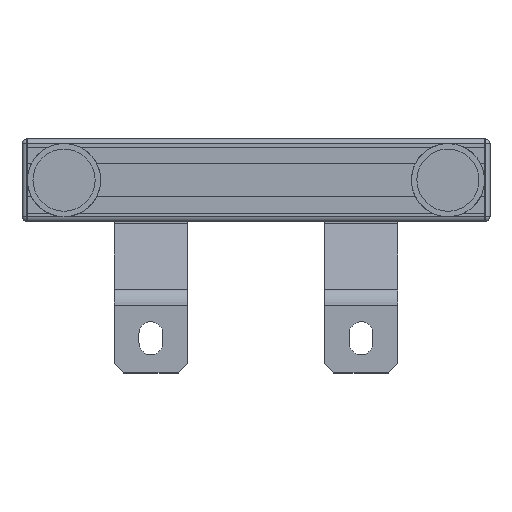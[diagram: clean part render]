
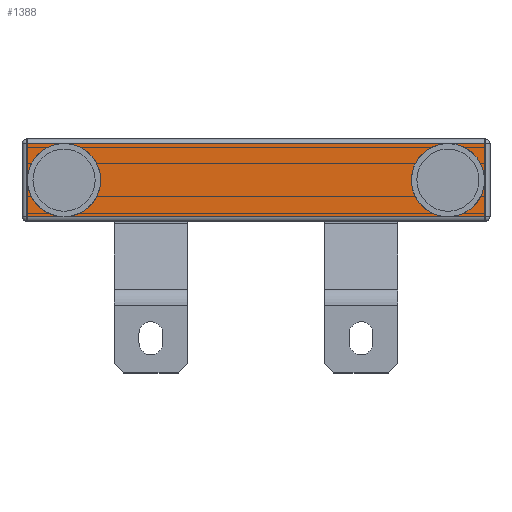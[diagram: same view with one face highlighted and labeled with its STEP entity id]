
A CAD part, front view. The second image highlights one B-rep face of the part: STEP entity #1388.
In plain terms, the highlighted planar face has unit normal (0, -1, 0).
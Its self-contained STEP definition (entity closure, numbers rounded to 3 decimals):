
#265 = ORIENTED_EDGE ( 'NONE', *, *, #9465, .T. ) ;
#386 = EDGE_LOOP ( 'NONE', ( #3110 ) ) ;
#410 = LINE ( 'NONE', #660, #1087 ) ;
#454 = VERTEX_POINT ( 'NONE', #10147 ) ;
#624 = CARTESIAN_POINT ( 'NONE',  ( 125., -19., 20. ) ) ;
#660 = CARTESIAN_POINT ( 'NONE',  ( -125., -19., 0. ) ) ;
#877 = EDGE_LOOP ( 'NONE', ( #3488, #5421, #2536, #265 ) ) ;
#886 = DIRECTION ( 'NONE',  ( 0., 0., -1. ) ) ;
#954 = VERTEX_POINT ( 'NONE', #8702 ) ;
#1087 = VECTOR ( 'NONE', #4224, 1000. ) ;
#1388 = ADVANCED_FACE ( 'NONE', ( #6657, #7615, #2907 ), #5909, .F. ) ;
#1490 = CARTESIAN_POINT ( 'NONE',  ( 105., -19., 0. ) ) ;
#1722 = CARTESIAN_POINT ( 'NONE',  ( 105., -19., 3.4 ) ) ;
#2437 = VERTEX_POINT ( 'NONE', #6790 ) ;
#2473 = LINE ( 'NONE', #11167, #5988 ) ;
#2536 = ORIENTED_EDGE ( 'NONE', *, *, #5038, .F. ) ;
#2907 = FACE_OUTER_BOUND ( 'NONE', #877, .T. ) ;
#2909 = VECTOR ( 'NONE', #10867, 1000. ) ;
#3110 = ORIENTED_EDGE ( 'NONE', *, *, #7900, .T. ) ;
#3488 = ORIENTED_EDGE ( 'NONE', *, *, #4052, .T. ) ;
#3547 = DIRECTION ( 'NONE',  ( -1., 0., 0. ) ) ;
#4052 = EDGE_CURVE ( 'NONE', #2437, #454, #410, .T. ) ;
#4224 = DIRECTION ( 'NONE',  ( 0., 0., -1. ) ) ;
#4311 = AXIS2_PLACEMENT_3D ( 'NONE', #1490, #6435, #9099 ) ;
#4598 = VERTEX_POINT ( 'NONE', #5469 ) ;
#4758 = CARTESIAN_POINT ( 'NONE',  ( 125., -19., 20. ) ) ;
#4843 = DIRECTION ( 'NONE',  ( 0., 1., 0. ) ) ;
#4880 = CIRCLE ( 'NONE', #11740, 3.4 ) ;
#5038 = EDGE_CURVE ( 'NONE', #9278, #954, #9553, .T. ) ;
#5370 = LINE ( 'NONE', #624, #2909 ) ;
#5421 = ORIENTED_EDGE ( 'NONE', *, *, #5586, .F. ) ;
#5469 = CARTESIAN_POINT ( 'NONE',  ( -105., -19., 3.4 ) ) ;
#5586 = EDGE_CURVE ( 'NONE', #954, #454, #2473, .T. ) ;
#5797 = ORIENTED_EDGE ( 'NONE', *, *, #7230, .T. ) ;
#5803 = CARTESIAN_POINT ( 'NONE',  ( 125., -19., 20. ) ) ;
#5815 = DIRECTION ( 'NONE',  ( 0., 1., 0. ) ) ;
#5909 = PLANE ( 'NONE',  #7726 ) ;
#5988 = VECTOR ( 'NONE', #3547, 1000. ) ;
#6435 = DIRECTION ( 'NONE',  ( 0., 1., 0. ) ) ;
#6657 = FACE_BOUND ( 'NONE', #386, .T. ) ;
#6788 = DIRECTION ( 'NONE',  ( 0., 0., 1. ) ) ;
#6790 = CARTESIAN_POINT ( 'NONE',  ( -125., -19., 20. ) ) ;
#7230 = EDGE_CURVE ( 'NONE', #4598, #4598, #4880, .T. ) ;
#7615 = FACE_BOUND ( 'NONE', #7696, .T. ) ;
#7696 = EDGE_LOOP ( 'NONE', ( #5797 ) ) ;
#7718 = CARTESIAN_POINT ( 'NONE',  ( -105., -19., 0. ) ) ;
#7726 = AXIS2_PLACEMENT_3D ( 'NONE', #10511, #4843, #6788 ) ;
#7900 = EDGE_CURVE ( 'NONE', #10452, #10452, #11163, .T. ) ;
#8702 = CARTESIAN_POINT ( 'NONE',  ( 125., -19., -20. ) ) ;
#9099 = DIRECTION ( 'NONE',  ( 0., 0., 1. ) ) ;
#9278 = VERTEX_POINT ( 'NONE', #5803 ) ;
#9465 = EDGE_CURVE ( 'NONE', #9278, #2437, #5370, .T. ) ;
#9553 = LINE ( 'NONE', #4758, #9817 ) ;
#9817 = VECTOR ( 'NONE', #886, 1000. ) ;
#10147 = CARTESIAN_POINT ( 'NONE',  ( -125., -19., -20. ) ) ;
#10452 = VERTEX_POINT ( 'NONE', #1722 ) ;
#10511 = CARTESIAN_POINT ( 'NONE',  ( 125., -19., 0. ) ) ;
#10680 = DIRECTION ( 'NONE',  ( 0., 0., 1. ) ) ;
#10867 = DIRECTION ( 'NONE',  ( -1., 0., 0. ) ) ;
#11163 = CIRCLE ( 'NONE', #4311, 3.4 ) ;
#11167 = CARTESIAN_POINT ( 'NONE',  ( 125., -19., -20. ) ) ;
#11740 = AXIS2_PLACEMENT_3D ( 'NONE', #7718, #5815, #10680 ) ;
